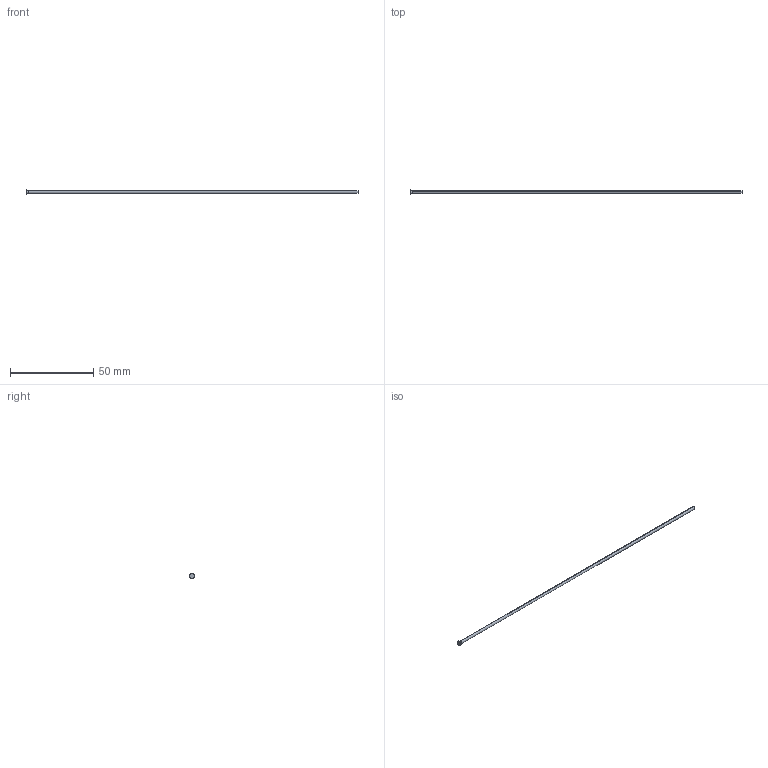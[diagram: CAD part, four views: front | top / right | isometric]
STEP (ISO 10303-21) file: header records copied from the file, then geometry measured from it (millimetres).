
FILE_DESCRIPTION (( 'STEP AP214' ), '1' );
FILE_NAME ('D-1,8x200.STEP', '2020-06-08T09:42:01', ( 'August' ), ( '' ), 'SwSTEP 2.0', 'SolidWorks 2018', '' );
FILE_SCHEMA (( 'AUTOMOTIVE_DESIGN' ));
Length unit declared in the file: millimetre
Products named in the file (1): D-1,8x200
Bounding box: 200 x 2.8 x 2.8 mm (x, y, z)
Volume: 512.2 mm3; surface area: 1143.6 mm2
Topology: 1 solids, 1 shells, 10 faces, 18 edges, 10 vertices
Faces by surface type: cylinder 4, torus 2, cone 2, plane 2
Entity records: 280 total; most frequent: DIRECTION 52, CARTESIAN_POINT 39, ORIENTED_EDGE 36, AXIS2_PLACEMENT_3D 23, EDGE_CURVE 18, CIRCLE 12, ADVANCED_FACE 10, VERTEX_POINT 10
